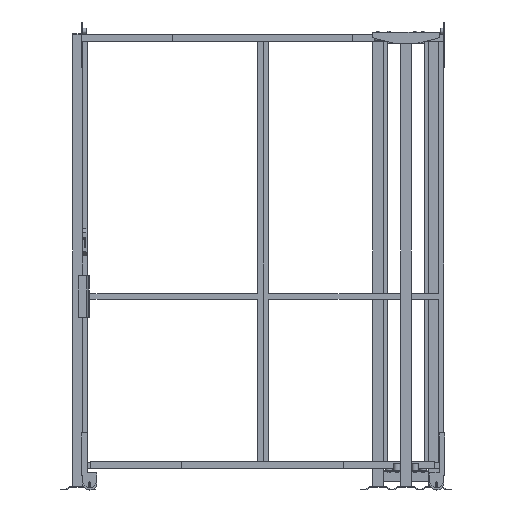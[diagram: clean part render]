
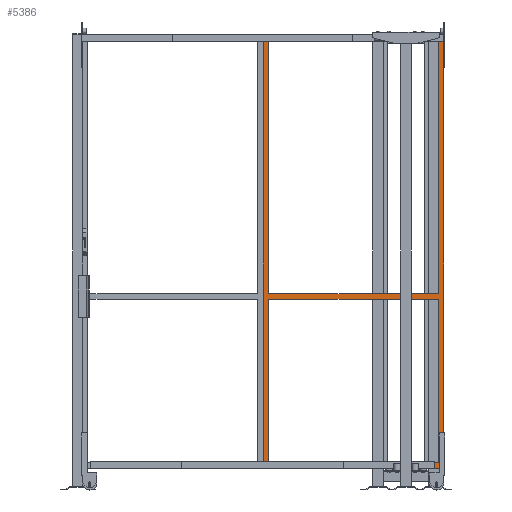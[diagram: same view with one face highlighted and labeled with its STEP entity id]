
A CAD part, front view. The second image highlights one B-rep face of the part: STEP entity #5386.
In plain terms, the highlighted planar face has unit normal (0, -1, 0).
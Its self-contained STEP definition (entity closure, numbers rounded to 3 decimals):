
#434=FACE_BOUND('',#875,.T.);
#435=FACE_BOUND('',#876,.T.);
#477=FACE_OUTER_BOUND('',#874,.T.);
#874=EDGE_LOOP('',(#3076,#3077,#3078,#3079));
#875=EDGE_LOOP('',(#3080,#3081,#3082,#3083));
#876=EDGE_LOOP('',(#3084,#3085,#3086,#3087));
#1308=VERTEX_POINT('',#10808);
#1310=VERTEX_POINT('',#10811);
#1313=VERTEX_POINT('',#10818);
#1315=VERTEX_POINT('',#10822);
#1316=VERTEX_POINT('',#10826);
#1318=VERTEX_POINT('',#10832);
#1319=VERTEX_POINT('',#10833);
#1320=VERTEX_POINT('',#10835);
#1321=VERTEX_POINT('',#10837);
#1322=VERTEX_POINT('',#10840);
#1323=VERTEX_POINT('',#10842);
#1324=VERTEX_POINT('',#10845);
#2035=EDGE_CURVE('',#1308,#1310,#6163,.T.);
#2041=EDGE_CURVE('',#1315,#1313,#6169,.T.);
#2042=EDGE_CURVE('',#1316,#1313,#6170,.T.);
#2045=EDGE_CURVE('',#1318,#1319,#6173,.T.);
#2046=EDGE_CURVE('',#1320,#1319,#6174,.T.);
#2047=EDGE_CURVE('',#1321,#1320,#6175,.T.);
#2048=EDGE_CURVE('',#1318,#1321,#6176,.T.);
#2049=EDGE_CURVE('',#1308,#1322,#6177,.T.);
#2050=EDGE_CURVE('',#1322,#1323,#6178,.T.);
#2051=EDGE_CURVE('',#1323,#1310,#6179,.T.);
#2052=EDGE_CURVE('',#1315,#1324,#6180,.T.);
#2053=EDGE_CURVE('',#1324,#1316,#6181,.T.);
#3076=ORIENTED_EDGE('',*,*,#2045,.T.);
#3077=ORIENTED_EDGE('',*,*,#2046,.F.);
#3078=ORIENTED_EDGE('',*,*,#2047,.F.);
#3079=ORIENTED_EDGE('',*,*,#2048,.F.);
#3080=ORIENTED_EDGE('',*,*,#2049,.T.);
#3081=ORIENTED_EDGE('',*,*,#2050,.T.);
#3082=ORIENTED_EDGE('',*,*,#2051,.T.);
#3083=ORIENTED_EDGE('',*,*,#2035,.F.);
#3084=ORIENTED_EDGE('',*,*,#2041,.F.);
#3085=ORIENTED_EDGE('',*,*,#2052,.T.);
#3086=ORIENTED_EDGE('',*,*,#2053,.T.);
#3087=ORIENTED_EDGE('',*,*,#2042,.T.);
#5029=PLANE('',#8156);
#5386=ADVANCED_FACE('',(#477,#434,#435),#5029,.F.);
#6163=LINE('',#10812,#7158);
#6169=LINE('',#10824,#7164);
#6170=LINE('',#10827,#7165);
#6173=LINE('',#10834,#7168);
#6174=LINE('',#10836,#7169);
#6175=LINE('',#10838,#7170);
#6176=LINE('',#10839,#7171);
#6177=LINE('',#10841,#7172);
#6178=LINE('',#10843,#7173);
#6179=LINE('',#10844,#7174);
#6180=LINE('',#10846,#7175);
#6181=LINE('',#10847,#7176);
#7158=VECTOR('',#8711,1.);
#7164=VECTOR('',#8719,1.);
#7165=VECTOR('',#8722,1.);
#7168=VECTOR('',#8727,1.);
#7169=VECTOR('',#8728,1.);
#7170=VECTOR('',#8729,1.);
#7171=VECTOR('',#8730,1.);
#7172=VECTOR('',#8731,1.);
#7173=VECTOR('',#8732,1.);
#7174=VECTOR('',#8733,1.);
#7175=VECTOR('',#8734,1.);
#7176=VECTOR('',#8735,1.);
#8156=AXIS2_PLACEMENT_3D('',#10831,#8725,#8726);
#8711=DIRECTION('',(1.,0.,0.));
#8719=DIRECTION('',(-1.,0.,0.));
#8722=DIRECTION('',(0.,0.,1.));
#8725=DIRECTION('center_axis',(0.,1.,0.));
#8726=DIRECTION('ref_axis',(0.,0.,1.));
#8727=DIRECTION('',(0.,0.,-1.));
#8728=DIRECTION('',(-1.,0.,0.));
#8729=DIRECTION('',(0.,0.,-1.));
#8730=DIRECTION('',(1.,0.,0.));
#8731=DIRECTION('',(0.,0.,1.));
#8732=DIRECTION('',(1.,0.,0.));
#8733=DIRECTION('',(0.,0.,-1.));
#8734=DIRECTION('',(0.,0.,-1.));
#8735=DIRECTION('',(-1.,0.,0.));
#10808=CARTESIAN_POINT('',(30.,0.,965.));
#10811=CARTESIAN_POINT('',(970.,0.,965.));
#10812=CARTESIAN_POINT('',(500.,0.,965.));
#10818=CARTESIAN_POINT('',(30.,0.,935.));
#10822=CARTESIAN_POINT('',(970.,0.,935.));
#10824=CARTESIAN_POINT('',(500.,0.,935.));
#10826=CARTESIAN_POINT('',(30.,0.,30.));
#10827=CARTESIAN_POINT('',(30.,0.,1200.));
#10831=CARTESIAN_POINT('Origin',(500.,0.,1200.));
#10832=CARTESIAN_POINT('',(0.,0.,2400.));
#10833=CARTESIAN_POINT('',(0.,0.,0.));
#10834=CARTESIAN_POINT('',(0.,0.,1200.));
#10835=CARTESIAN_POINT('',(1000.,0.,0.));
#10836=CARTESIAN_POINT('',(500.,0.,0.));
#10837=CARTESIAN_POINT('',(1000.,0.,2400.));
#10838=CARTESIAN_POINT('',(1000.,0.,1200.));
#10839=CARTESIAN_POINT('',(500.,0.,2400.));
#10840=CARTESIAN_POINT('',(30.,0.,2370.));
#10841=CARTESIAN_POINT('',(30.,0.,1200.));
#10842=CARTESIAN_POINT('',(970.,0.,2370.));
#10843=CARTESIAN_POINT('',(500.,0.,2370.));
#10844=CARTESIAN_POINT('',(970.,0.,1200.));
#10845=CARTESIAN_POINT('',(970.,0.,30.));
#10846=CARTESIAN_POINT('',(970.,0.,1200.));
#10847=CARTESIAN_POINT('',(500.,0.,30.));
